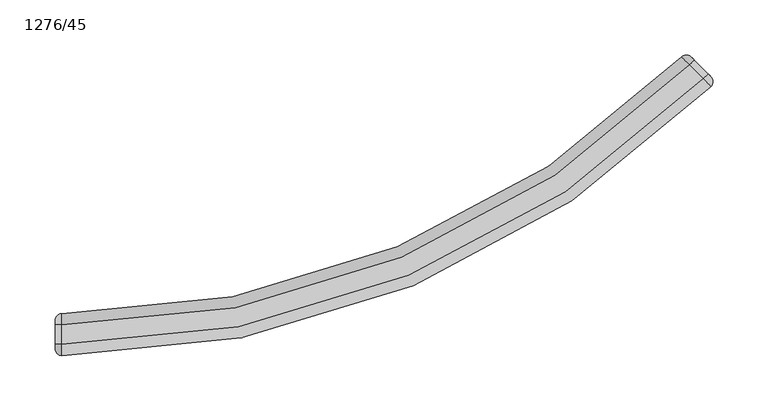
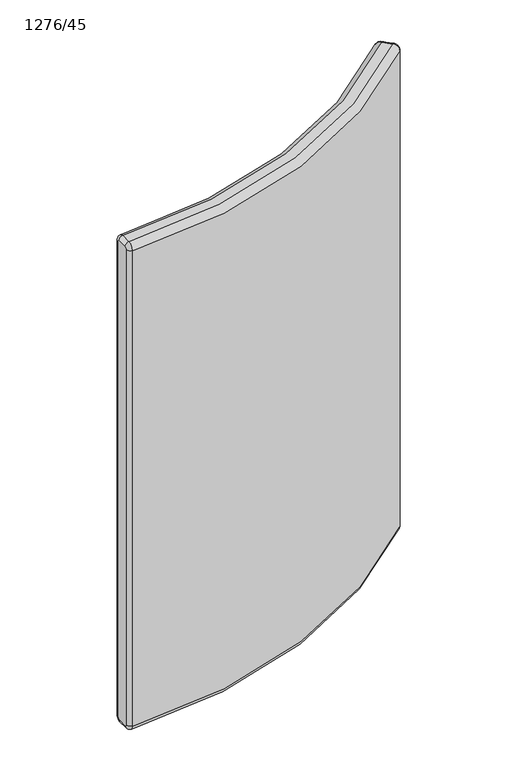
"""IFC4 building model written with IfcOpenShell, lengths in millimetres: furniture geometry, Laguna-Panel-Curve_Outside-ERG : 1276/45."""

from ifc_helpers import new_model, si_unit, point, frame, origin, place, context, project, spatial, polyline, circle_curve, ellipse_curve, trimmed, source, transform, mapped, element, save
from ifc_brep_helpers import plane_surface, cylinder_surface, revolved_surface, advanced_brep


def furniture_1276_45_0a47ef88(model_context):
    return source(origin(), model_context, "Body", "AdvancedBrep", [
        advanced_brep(
        [(-4700.4237656, 996.8738467, 1056.64), (-4110.6099791, 1241.2336038, 1056.64), (-4117.795242, 1248.4167505, 1066.8), (-4700.4237656, 1007.0338467, 1066.8), (-4700.4237656, 996.8738467, 213.3600168), (-4110.6099791, 1241.2336038, 213.36), (-4700.4237656, 1007.0338467, 203.2), (-4117.795242, 1248.4167505, 203.2), (-4700.4237656, 1024.8138302, 203.2), (-4130.3694521, 1260.9872573, 203.2), (-4700.4237656, 1034.9738467, 213.36), (-4137.554715, 1268.1704041, 213.36), (-4700.4237656, 1034.9738467, 1056.6399836), (-4137.554715, 1268.1704041, 1056.64), (-4700.4237656, 1024.8138467, 1066.8), (-4130.3694521, 1260.9872573, 1066.8), (-4706.7737656, 1028.6238467, 213.36), (-4706.7737656, 1024.8138467, 209.55), (-4706.7737656, 1007.0338467, 209.55), (-4706.7737656, 1003.2238467, 213.36), (-4706.7737656, 1003.2238467, 1056.64), (-4706.7737656, 1007.0338467, 1060.45), (-4706.7737656, 1024.8138467, 1060.45), (-4706.7737656, 1028.6238467, 1056.64), (-4128.574459, 1268.1717267, 1056.64), (-4125.8799854, 1265.4780466, 1060.45), (-4113.3057753, 1252.9075399, 1060.45), (-4110.6113017, 1250.2138598, 1056.64), (-4110.6113017, 1250.2138598, 213.36), (-4113.3057753, 1252.9075399, 209.55), (-4125.8799854, 1265.4780466, 209.55), (-4128.574459, 1268.1717267, 213.36)],
        [
            (0, 1, circle_curve(frame((-4700.4237656, 1830.8736805, 1056.64), z_axis=(0.0, 0.0, 1.0), x_axis=(0.7072109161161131, -0.7070026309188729, 0.0)), 833.9998338)),
            (1, 2, circle_curve(frame((-4117.795242, 1248.4167505, 1056.64), z_axis=(-0.7070026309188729, -0.7072109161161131, 0.0), x_axis=(0.7072109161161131, -0.7070026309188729, 0.0)), 10.16)),
            (2, 3, circle_curve(frame((-4700.4237656, 1830.8736805, 1066.8), z_axis=(0.0, 0.0, -1.0), x_axis=(0.7072109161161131, -0.7070026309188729, 0.0)), 823.8398338)),
            (3, 0, circle_curve(frame((-4700.4237656, 1007.0338467, 1056.64), z_axis=(1.0, 0.0, 0.0), x_axis=(0.0, -1.0, 0.0)), 10.16)),
            (0, 4),
            (4, 5, circle_curve(frame((-4700.4237656, 1830.8736805, 213.36), z_axis=(0.0, 0.0, 1.0), x_axis=(0.7072109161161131, -0.7070026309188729, 0.0)), 833.9998338)),
            (5, 1),
            (4, 6, circle_curve(frame((-4700.4237656, 1007.0338467, 213.36), z_axis=(1.0, 0.0, 0.0), x_axis=(0.0, -1.0, 0.0)), 10.16)),
            (6, 7, circle_curve(frame((-4700.4237656, 1830.8736805, 203.2), z_axis=(0.0, 0.0, 1.0), x_axis=(0.7072109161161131, -0.7070026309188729, 0.0)), 823.8398338)),
            (7, 5, circle_curve(frame((-4117.795242, 1248.4167505, 213.36), z_axis=(-0.7070026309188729, -0.7072109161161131, 0.0), x_axis=(0.7072109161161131, -0.7070026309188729, 0.0)), 10.16)),
            (6, 8),
            (8, 9, circle_curve(frame((-4700.4237656, 1830.8736805, 203.2), z_axis=(0.0, 0.0, 1.0), x_axis=(0.7072109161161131, -0.7070026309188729, 0.0)), 806.0598338)),
            (9, 7),
            (8, 10, circle_curve(frame((-4700.4237656, 1024.8138467, 213.36), z_axis=(1.0, 0.0, 0.0), x_axis=(0.0, -1.0, 0.0)), 10.16)),
            (10, 11, circle_curve(frame((-4700.4237656, 1830.8736805, 213.36), z_axis=(0.0, 0.0, 1.0), x_axis=(0.7072109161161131, -0.7070026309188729, 0.0)), 795.8998338)),
            (11, 9, circle_curve(frame((-4130.3694521, 1260.9872573, 213.36), z_axis=(-0.7070026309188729, -0.7072109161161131, 0.0), x_axis=(0.7072109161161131, -0.7070026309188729, 0.0)), 10.16)),
            (10, 12),
            (12, 13, circle_curve(frame((-4700.4237656, 1830.8736805, 1056.64), z_axis=(0.0, 0.0, 1.0), x_axis=(0.7072109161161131, -0.7070026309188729, 0.0)), 795.8998338)),
            (13, 11),
            (12, 14, circle_curve(frame((-4700.4237656, 1024.8138467, 1056.64), z_axis=(1.0, 0.0, 0.0), x_axis=(0.0, -1.0, 0.0)), 10.16)),
            (14, 15, circle_curve(frame((-4700.4237656, 1830.8736805, 1066.8), z_axis=(0.0, 0.0, 1.0), x_axis=(0.7072109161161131, -0.7070026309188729, 0.0)), 806.0598338)),
            (15, 13, circle_curve(frame((-4130.3694521, 1260.9872573, 1056.64), z_axis=(-0.7070026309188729, -0.7072109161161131, 0.0), x_axis=(0.7072109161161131, -0.7070026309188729, 0.0)), 10.16)),
            (2, 15),
            (14, 3),
            (16, 10, circle_curve(frame((-4700.4237656, 1028.6238467, 213.36), z_axis=(0.0, 0.0, -1.0), x_axis=(-1.0, 0.0, 0.0)), 6.35)),
            (8, 17, circle_curve(frame((-4700.4237656, 1024.8138467, 209.55), z_axis=(0.0, 1.0, 0.0), x_axis=(-1.0, 0.0, 0.0)), 6.35)),
            (17, 16, circle_curve(frame((-4706.7737656, 1024.8138467, 213.36), z_axis=(1.0, 0.0, 0.0), x_axis=(0.0, 1.0, 0.0)), 3.81)),
            (6, 18, circle_curve(frame((-4700.4237656, 1007.0338467, 209.55), z_axis=(0.0, 1.0, 0.0), x_axis=(-1.0, 0.0, 0.0)), 6.35)),
            (18, 17),
            (4, 19, circle_curve(frame((-4700.4237656, 1003.2238467, 213.36), z_axis=(0.0, 0.0, -1.0), x_axis=(-1.0, 0.0, 0.0)), 6.35)),
            (19, 18, circle_curve(frame((-4706.7737656, 1007.0338467, 213.36), z_axis=(1.0, 0.0, 0.0), x_axis=(0.0, 0.0, -1.0)), 3.81)),
            (0, 20, circle_curve(frame((-4700.4237656, 1003.2238467, 1056.64), z_axis=(0.0, 0.0, -1.0), x_axis=(-1.0, 0.0, 0.0)), 6.35)),
            (20, 19),
            (3, 21, circle_curve(frame((-4700.4237656, 1007.0338467, 1060.45), z_axis=(0.0, -1.0, 0.0), x_axis=(-1.0, 0.0, 0.0)), 6.35)),
            (21, 20, circle_curve(frame((-4706.7737656, 1007.0338467, 1056.64), z_axis=(1.0, 0.0, 0.0), x_axis=(0.0, -1.0, 0.0)), 3.81)),
            (14, 22, circle_curve(frame((-4700.4237656, 1024.8138467, 1060.45), z_axis=(0.0, -1.0, 0.0), x_axis=(-1.0, 0.0, 0.0)), 6.35)),
            (22, 21),
            (12, 23, circle_curve(frame((-4700.4237656, 1028.6238467, 1056.64), z_axis=(0.0, 0.0, 1.0), x_axis=(-1.0, 0.0, 0.0)), 6.35)),
            (23, 22, circle_curve(frame((-4706.7737656, 1024.8138467, 1056.64), z_axis=(1.0, 0.0, 0.0), x_axis=(0.0, 0.0, 1.0)), 3.81)),
            (16, 23),
            (24, 13, circle_curve(frame((-4133.0639257, 1263.6809373, 1056.64), z_axis=(0.0, 0.0, 1.0), x_axis=(0.7072109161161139, -0.7070026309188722, 0.0)), 6.35)),
            (15, 25, circle_curve(frame((-4130.3694521, 1260.9872573, 1060.45), z_axis=(-0.7072109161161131, 0.7070026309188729, 0.0), x_axis=(0.0, 0.0, -1.0)), 6.35)),
            (25, 24, circle_curve(frame((-4125.8799854, 1265.4780466, 1056.64), z_axis=(-0.7070026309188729, -0.7072109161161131, 0.0), x_axis=(-0.7072109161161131, 0.7070026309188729, 0.0)), 3.81)),
            (2, 26, circle_curve(frame((-4117.795242, 1248.4167505, 1060.45), z_axis=(-0.7072109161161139, 0.7070026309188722, 0.0), x_axis=(0.0, 0.0, -1.0)), 6.35)),
            (26, 25),
            (1, 27, circle_curve(frame((-4115.1007684, 1245.7230705, 1056.64), z_axis=(0.0, 0.0, 1.0), x_axis=(-0.7072109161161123, 0.7070026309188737, 0.0)), 6.35)),
            (27, 26, circle_curve(frame((-4113.3057753, 1252.9075399, 1056.64), z_axis=(-0.7070026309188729, -0.7072109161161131, 0.0), x_axis=(0.0, 0.0, 1.0)), 3.81)),
            (5, 28, circle_curve(frame((-4115.1007684, 1245.7230705, 213.36), z_axis=(0.0, 0.0, 1.0), x_axis=(-0.7072109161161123, 0.7070026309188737, 0.0)), 6.35)),
            (28, 27),
            (7, 29, circle_curve(frame((-4117.795242, 1248.4167505, 209.55), z_axis=(0.7072109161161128, -0.7070026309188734, 0.0), x_axis=(0.0, 0.0, 1.0000000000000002)), 6.35)),
            (29, 28, circle_curve(frame((-4113.3057753, 1252.9075399, 213.36), z_axis=(-0.7070026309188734, -0.7072109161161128, 0.0), x_axis=(0.7072109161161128, -0.7070026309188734, 0.0)), 3.81)),
            (9, 30, circle_curve(frame((-4130.3694521, 1260.9872573, 209.55), z_axis=(0.7072109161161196, -0.7070026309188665, 0.0), x_axis=(0.0, 0.0, 1.0)), 6.35)),
            (30, 29),
            (11, 31, circle_curve(frame((-4133.0639257, 1263.6809373, 213.36), z_axis=(0.0, 0.0, -1.0), x_axis=(0.7072109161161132, -0.7070026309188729, 0.0)), 6.35)),
            (31, 30, circle_curve(frame((-4125.8799854, 1265.4780466, 213.36), z_axis=(-0.7070026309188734, -0.7072109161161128, 0.0), x_axis=(0.0, 0.0, -1.0)), 3.81)),
            (24, 31),
        ],
        [
            revolved_surface(trimmed(ellipse_curve(frame((-4117.795242, 1248.4167505, 1056.64), z_axis=(0.7070026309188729, 0.7072109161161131, 0.0), x_axis=(0.7072109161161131, -0.7070026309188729, 0.0)), 10.16, 10.16), [point((-4117.795242, 1248.4167505, 1066.8))], [point((-4110.6099791, 1241.2336038, 1056.64))], True, "CARTESIAN"), (-4700.4237656, 1830.8736805, 0.0), (0.0, 0.0, -1.0)),
            cylinder_surface(frame((-4700.4237656, 1830.8736805, 0.0), z_axis=(0.0, 0.0, -1.0), x_axis=(0.7072109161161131, -0.7070026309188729, 0.0)), 833.9998338),
            revolved_surface(trimmed(ellipse_curve(frame((-4117.795242, 1248.4167505, 213.36), z_axis=(0.7070026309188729, 0.7072109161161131, 0.0), x_axis=(0.7072109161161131, -0.7070026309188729, 0.0)), 10.16, 10.16), [point((-4110.6099791, 1241.2336038, 213.36))], [point((-4117.795242, 1248.4167505, 203.2))], True, "CARTESIAN"), (-4700.4237656, 1830.8736805, 0.0), (0.0, 0.0, -1.0)),
            plane_surface(frame((-4700.4237656, 1830.8736805, 203.2), z_axis=(0.0, 0.0, -1.0), x_axis=(0.7072109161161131, -0.7070026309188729, 0.0))),
            revolved_surface(trimmed(ellipse_curve(frame((-4130.3694521, 1260.9872573, 213.36), z_axis=(0.7070026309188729, 0.7072109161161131, 0.0), x_axis=(0.7072109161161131, -0.7070026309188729, 0.0)), 10.16, 10.16), [point((-4130.3694521, 1260.9872573, 203.2))], [point((-4137.554715, 1268.1704041, 213.36))], True, "CARTESIAN"), (-4700.4237656, 1830.8736805, 0.0), (0.0, 0.0, -1.0)),
            revolved_surface(polyline([(-4137.554715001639, 1268.1704040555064, 213.36), (-4137.554715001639, 1268.1704040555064, 1056.64)]), (-4700.4237656, 1830.8736805, 0.0), (0.0, 0.0, -1.0)),
            revolved_surface(trimmed(ellipse_curve(frame((-4130.3694521, 1260.9872573, 1056.64), z_axis=(0.7070026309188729, 0.7072109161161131, 0.0), x_axis=(0.7072109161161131, -0.7070026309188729, 0.0)), 10.16, 10.16), [point((-4137.554715, 1268.1704041, 1056.64))], [point((-4130.3694521, 1260.9872573, 1066.8))], True, "CARTESIAN"), (-4700.4237656, 1830.8736805, 0.0), (0.0, 0.0, -1.0)),
            plane_surface(frame((-4700.4237656, 1830.8736805, 1066.8), z_axis=(0.0, 0.0, 1.0), x_axis=(0.7072109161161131, -0.7070026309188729, 0.0))),
            revolved_surface(trimmed(ellipse_curve(frame((-4700.4237656, 1028.6238467, 213.36), z_axis=(0.0, 0.0, 1.0), x_axis=(-1.0, 0.0, 0.0)), 6.35, 6.35), [point((-4700.4237656, 1034.9738467, 213.36))], [point((-4706.7737656, 1028.6238467, 213.36))], True, "CARTESIAN"), (-4700.4237656, 1024.8138467, 213.36), (-1.0, 0.0, 0.0)),
            cylinder_surface(frame((-4700.4237656, 1024.8138467, 209.55), z_axis=(0.0, 1.0, 0.0), x_axis=(-1.0, 0.0, 0.0)), 6.35),
            revolved_surface(trimmed(ellipse_curve(frame((-4700.4237656, 1007.0338467, 209.55), z_axis=(0.0, 1.0, 0.0), x_axis=(-1.0, 0.0, 0.0)), 6.35, 6.35), [point((-4700.4237656, 1007.0338467, 203.2))], [point((-4706.7737656, 1007.0338467, 209.55))], True, "CARTESIAN"), (-4700.4237656, 1007.0338467, 213.36), (-1.0, 0.0, 0.0)),
            cylinder_surface(frame((-4700.4237656, 1003.2238467, 213.36), z_axis=(0.0, 0.0, -1.0), x_axis=(-1.0, 0.0, 0.0)), 6.35),
            revolved_surface(trimmed(ellipse_curve(frame((-4700.4237656, 1003.2238467, 1056.64), z_axis=(0.0, 0.0, -1.0), x_axis=(-1.0, 0.0, 0.0)), 6.35, 6.35), [point((-4700.4237656, 996.8738467, 1056.64))], [point((-4706.7737656, 1003.2238467, 1056.64))], True, "CARTESIAN"), (-4700.4237656, 1007.0338467, 1056.64), (-1.0, 0.0, 0.0)),
            cylinder_surface(frame((-4700.4237656, 1007.0338467, 1060.45), z_axis=(0.0, -1.0, 0.0), x_axis=(-1.0, 0.0, 0.0)), 6.35),
            revolved_surface(trimmed(ellipse_curve(frame((-4700.4237656, 1024.8138467, 1060.45), z_axis=(0.0, -1.0, 0.0), x_axis=(-1.0, 0.0, 0.0)), 6.35, 6.35), [point((-4700.4237656, 1024.8138467, 1066.8))], [point((-4706.7737656, 1024.8138467, 1060.45))], True, "CARTESIAN"), (-4700.4237656, 1024.8138467, 1056.64), (-1.0, 0.0, 0.0)),
            cylinder_surface(frame((-4700.4237656, 1028.6238467, 1056.64), z_axis=(0.0, 0.0, 1.0), x_axis=(-1.0, 0.0, 0.0)), 6.35),
            plane_surface(frame((-4706.7737656, 1028.6238467, 213.36), z_axis=(-1.0, 0.0, 0.0), x_axis=(0.0, 0.0, -1.0))),
            revolved_surface(trimmed(ellipse_curve(frame((-4133.0639257, 1263.6809373, 1056.64), z_axis=(0.0, 0.0, -1.0), x_axis=(0.7072109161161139, -0.7070026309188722, 0.0)), 6.35, 6.35), [point((-4137.554715, 1268.1704041, 1056.64))], [point((-4128.574459, 1268.1717267, 1056.64))], True, "CARTESIAN"), (-4130.3694521, 1260.9872573, 1056.64), (0.7070026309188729, 0.7072109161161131, 0.0)),
            cylinder_surface(frame((-4130.3694521, 1260.9872573, 1060.45), z_axis=(-0.7072109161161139, 0.7070026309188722, 0.0), x_axis=(0.0, 0.0, -1.0)), 6.35),
            revolved_surface(trimmed(ellipse_curve(frame((-4117.795242, 1248.4167505, 1060.45), z_axis=(-0.7072109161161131, 0.7070026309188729, 0.0), x_axis=(0.0, 0.0, -1.0)), 6.35, 6.35), [point((-4117.795242, 1248.4167505, 1066.8))], [point((-4113.3057753, 1252.9075399, 1060.45))], True, "CARTESIAN"), (-4117.795242, 1248.4167505, 1056.64), (0.7070026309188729, 0.7072109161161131, 0.0)),
            cylinder_surface(frame((-4115.1007684, 1245.7230705, 1056.64), z_axis=(0.0, 0.0, 1.0), x_axis=(-0.7072109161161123, 0.7070026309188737, 0.0)), 6.35),
            revolved_surface(trimmed(ellipse_curve(frame((-4115.1007684, 1245.7230705, 213.36), z_axis=(0.0, 0.0, 1.0000000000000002), x_axis=(-0.7072109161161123, 0.7070026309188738, 0.0)), 6.35, 6.35), [point((-4110.6099791, 1241.2336038, 213.36))], [point((-4110.6113017, 1250.2138598, 213.36))], True, "CARTESIAN"), (-4117.795242, 1248.4167505, 213.36), (0.7070026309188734, 0.7072109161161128, 0.0)),
            cylinder_surface(frame((-4117.795242, 1248.4167505, 209.55), z_axis=(0.7072109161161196, -0.7070026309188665, 0.0), x_axis=(0.0, 0.0, 1.0)), 6.35),
            revolved_surface(trimmed(ellipse_curve(frame((-4130.3694521, 1260.9872573, 209.55), z_axis=(0.7072109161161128, -0.7070026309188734, 0.0), x_axis=(0.0, 0.0, 1.0)), 6.35, 6.35), [point((-4130.3694521, 1260.9872573, 203.2))], [point((-4125.8799854, 1265.4780466, 209.55))], True, "CARTESIAN"), (-4130.3694521, 1260.9872573, 213.36), (0.7070026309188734, 0.7072109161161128, 0.0)),
            cylinder_surface(frame((-4133.0639257, 1263.6809373, 213.36), z_axis=(0.0, 0.0, -1.0000000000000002), x_axis=(0.7072109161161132, -0.7070026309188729, 0.0)), 6.35),
            plane_surface(frame((-4110.6113017, 1250.2138598, 213.36), z_axis=(0.7070026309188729, 0.7072109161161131, 0.0), x_axis=(0.0, 0.0, -1.0))),
        ],
        [
            (0, [[1, 2, 3, 4]]),
            (1, [[-1, 5, 6, 7]]),
            (2, [[-6, 8, 9, 10]]),
            (3, [[-9, 11, 12, 13]]),
            (4, [[-12, 14, 15, 16]]),
            (5, [[-15, 17, 18, 19]]),
            (6, [[-18, 20, 21, 22]]),
            (7, [[-3, 23, -21, 24]]),
            (8, [[25, -14, 26, 27]]),
            (9, [[-26, -11, 28, 29]]),
            (10, [[-28, -8, 30, 31]]),
            (11, [[-30, -5, 32, 33]]),
            (12, [[-32, -4, 34, 35]]),
            (13, [[-34, -24, 36, 37]]),
            (14, [[-36, -20, 38, 39]]),
            (15, [[-25, 40, -38, -17]]),
            (16, [[-27, -29, -31, -33, -35, -37, -39, -40]]),
            (17, [[41, -22, 42, 43]]),
            (18, [[-42, -23, 44, 45]]),
            (19, [[-44, -2, 46, 47]]),
            (20, [[-46, -7, 48, 49]]),
            (21, [[-48, -10, 50, 51]]),
            (22, [[-50, -13, 52, 53]]),
            (23, [[-52, -16, 54, 55]]),
            (24, [[-41, 56, -54, -19]]),
            (25, [[-43, -45, -47, -49, -51, -53, -55, -56]]),
        ],
    ),
    ])


if __name__ == "__main__":
    model = new_model("IFC4")
    model_context = context("Model", 3, world=origin())
    ifc_project = project(units=[si_unit("LENGTHUNIT", "METRE", prefix="MILLI")], contexts=[model_context])
    site = spatial("IfcSite", under=ifc_project)
    building = spatial("IfcBuilding", under=site)
    placement = place(None, origin())
    furniture_1276_45_shape = furniture_1276_45_0a47ef88(model_context)
    element("IfcFurniture", 1, ObjectType="Laguna-Panel-Curve_Outside-ERG : 1276/45", at=placement, inside=building, context=model_context, shape_type="MappedRepresentation", body=[
        mapped(furniture_1276_45_shape, transform((0.0, 0.0, 0.0), x_axis=(1.0, 0.0, 0.0), y_axis=(0.0, 1.0, 0.0), z_axis=(0.0, 0.0, 1.0))),
    ])
    save(model, "model.ifc")
